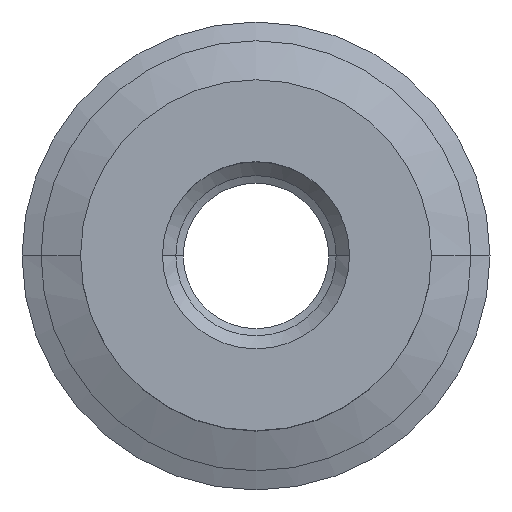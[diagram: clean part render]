
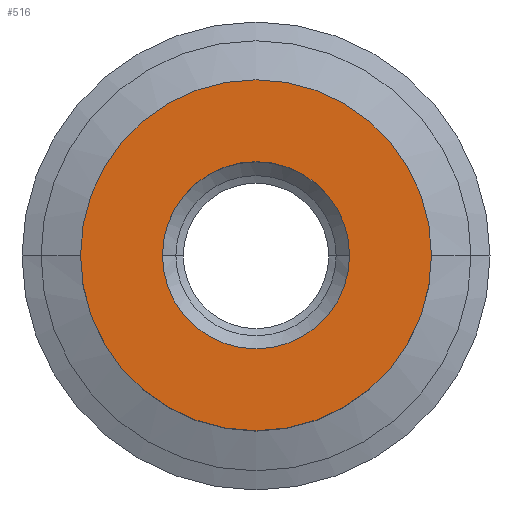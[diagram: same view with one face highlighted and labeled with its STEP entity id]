
A CAD part, top view. The second image highlights one B-rep face of the part: STEP entity #516.
In plain terms, the highlighted planar face has unit normal (0, 0, 1).
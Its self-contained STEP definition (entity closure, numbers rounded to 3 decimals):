
#11 = EDGE_CURVE ( 'NONE', #639, #196, #43, .T. ) ;
#29 = CARTESIAN_POINT ( 'NONE',  ( 0., 0., 0. ) ) ;
#43 = CIRCLE ( 'NONE', #142, 4. ) ;
#59 = CARTESIAN_POINT ( 'NONE',  ( 0., 0., 0. ) ) ;
#72 = DIRECTION ( 'NONE',  ( 1., 0., 0. ) ) ;
#86 = EDGE_CURVE ( 'NONE', #748, #87, #337, .T. ) ;
#87 = VERTEX_POINT ( 'NONE', #415 ) ;
#91 = DIRECTION ( 'NONE',  ( -1., 0., 0. ) ) ;
#113 = AXIS2_PLACEMENT_3D ( 'NONE', #619, #550, #205 ) ;
#124 = CARTESIAN_POINT ( 'NONE',  ( -7.5, 0., 0. ) ) ;
#142 = AXIS2_PLACEMENT_3D ( 'NONE', #351, #586, #72 ) ;
#149 = CARTESIAN_POINT ( 'NONE',  ( 0., 0., 0. ) ) ;
#189 = CIRCLE ( 'NONE', #113, 4. ) ;
#192 = AXIS2_PLACEMENT_3D ( 'NONE', #149, #629, #564 ) ;
#196 = VERTEX_POINT ( 'NONE', #726 ) ;
#205 = DIRECTION ( 'NONE',  ( 1., 0., 0. ) ) ;
#234 = ORIENTED_EDGE ( 'NONE', *, *, #86, .T. ) ;
#246 = AXIS2_PLACEMENT_3D ( 'NONE', #59, #652, #774 ) ;
#250 = EDGE_LOOP ( 'NONE', ( #439, #234 ) ) ;
#327 = EDGE_CURVE ( 'NONE', #87, #748, #444, .T. ) ;
#337 = CIRCLE ( 'NONE', #246, 7.5 ) ;
#351 = CARTESIAN_POINT ( 'NONE',  ( 0., 0., 0. ) ) ;
#415 = CARTESIAN_POINT ( 'NONE',  ( 7.5, 0., 0. ) ) ;
#431 = AXIS2_PLACEMENT_3D ( 'NONE', #29, #573, #91 ) ;
#439 = ORIENTED_EDGE ( 'NONE', *, *, #327, .T. ) ;
#440 = EDGE_CURVE ( 'NONE', #196, #639, #189, .T. ) ;
#443 = CARTESIAN_POINT ( 'NONE',  ( 4., 0., 0. ) ) ;
#444 = CIRCLE ( 'NONE', #192, 7.5 ) ;
#455 = FACE_BOUND ( 'NONE', #615, .T. ) ;
#475 = ORIENTED_EDGE ( 'NONE', *, *, #11, .F. ) ;
#516 = ADVANCED_FACE ( 'NONE', ( #455, #730 ), #562, .F. ) ;
#550 = DIRECTION ( 'NONE',  ( 0., 0., 1. ) ) ;
#562 = PLANE ( 'NONE',  #431 ) ;
#564 = DIRECTION ( 'NONE',  ( 1., 0., 0. ) ) ;
#573 = DIRECTION ( 'NONE',  ( 0., 0., -1. ) ) ;
#586 = DIRECTION ( 'NONE',  ( 0., 0., 1. ) ) ;
#592 = ORIENTED_EDGE ( 'NONE', *, *, #440, .F. ) ;
#615 = EDGE_LOOP ( 'NONE', ( #475, #592 ) ) ;
#619 = CARTESIAN_POINT ( 'NONE',  ( 0., 0., 0. ) ) ;
#629 = DIRECTION ( 'NONE',  ( 0., 0., 1. ) ) ;
#639 = VERTEX_POINT ( 'NONE', #443 ) ;
#652 = DIRECTION ( 'NONE',  ( 0., 0., 1. ) ) ;
#726 = CARTESIAN_POINT ( 'NONE',  ( -4., 0., 0. ) ) ;
#730 = FACE_OUTER_BOUND ( 'NONE', #250, .T. ) ;
#748 = VERTEX_POINT ( 'NONE', #124 ) ;
#774 = DIRECTION ( 'NONE',  ( 1., 0., 0. ) ) ;
